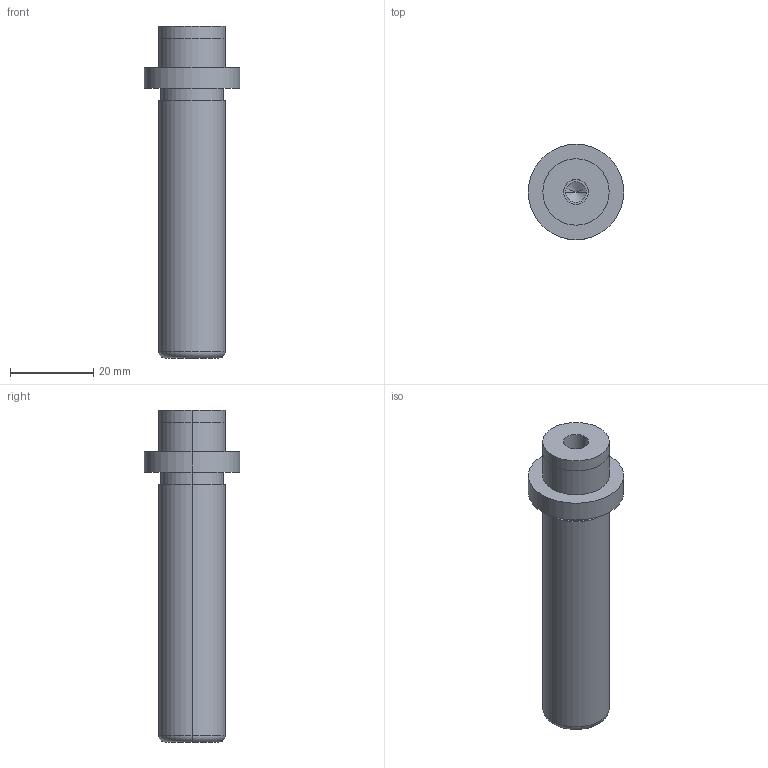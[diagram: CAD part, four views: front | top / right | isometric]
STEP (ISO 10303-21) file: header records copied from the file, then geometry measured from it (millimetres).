
FILE_DESCRIPTION(/* description */ (''),/* implementation_level */ '2;1');
FILE_NAME(/* name */ '3d_sgpw16-70_05279_r00.stp',/* time_stamp */ '2011-01-10T14:11:04+09:00',/* author */ ('MISUMI'),/* organization */ (''),/* preprocessor_version */ 'ST-DEVELOPER v11',/* originating_system */ 'UGS - NX 5.0',/* authorisation */ '');
FILE_SCHEMA (('CONFIG_CONTROL_DESIGN'));
Length unit declared in the file: millimetre
Products named in the file (1): 3d_sgpw16-70_05279_r00
Bounding box: 23 x 23 x 80 mm (x, y, z)
Volume: 16256.4 mm3; surface area: 5508.2 mm2
Topology: 1 solids, 1 shells, 31 faces, 64 edges, 38 vertices
Faces by surface type: cylinder 18, plane 7, cone 4, torus 2
Entity records: 890 total; most frequent: DIRECTION 162, CARTESIAN_POINT 130, ORIENTED_EDGE 120, AXIS2_PLACEMENT_3D 70, EDGE_CURVE 60, EDGE_LOOP 38, CIRCLE 38, VERTEX_POINT 38
